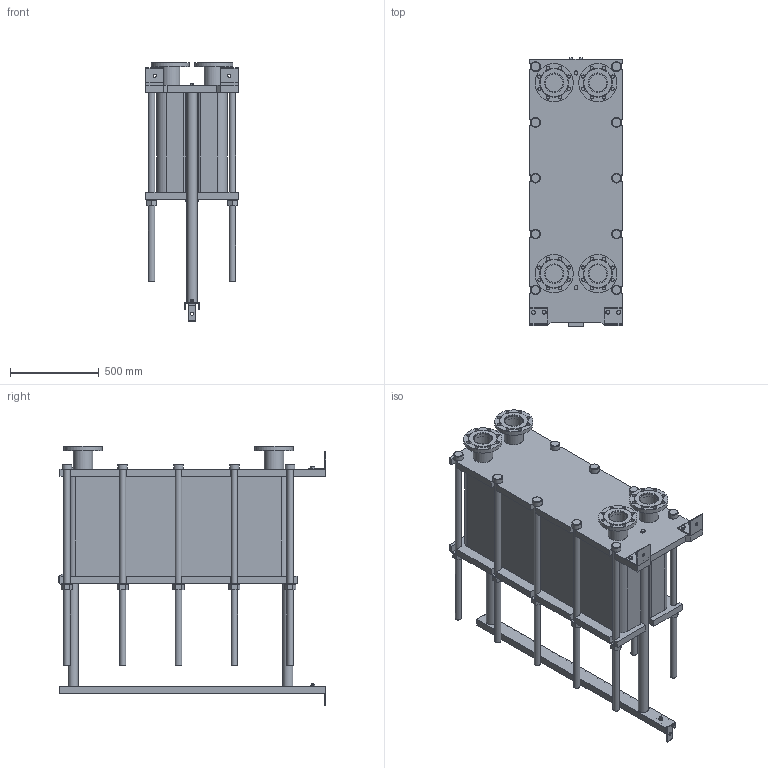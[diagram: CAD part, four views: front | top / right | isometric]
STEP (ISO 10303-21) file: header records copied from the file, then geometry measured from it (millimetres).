
FILE_DESCRIPTION(/* description */ (''),/* implementation_level */ '2;1');
FILE_NAME(/* name */ 'C:\Users\zhuro\Desktop\ENCO\TO\ЭН-04\ЭН-0,5-04-163-1.stp',/* time_stamp */ '2022-06-06T10:59:45+03:00',/* author */ ('zhuro'),/* organization */ (''),/* preprocessor_version */ 'ST-DEVELOPER v18.1',/* originating_system */ 'Autodesk Inventor 2022',/* authorisation */ '');
FILE_SCHEMA (('AUTOMOTIVE_DESIGN { 1 0 10303 214 3 1 1 }'));
Length unit declared in the file: millimetre
Products named in the file (1): ЭН-0,5-04-163-1
Bounding box: 520 x 1510 x 1461.5 mm (x, y, z)
Volume: 355635064.1 mm3; surface area: 9740637.9 mm2
Topology: 45 solids, 45 shells, 668 faces, 1611 edges, 1048 vertices
Faces by surface type: plane 457, cylinder 166, cone 39, torus 6
Full cylindrical faces by diameter (mm): 8 x4, 10 x2, 16 x8, 18 x35, 36 x25, 40 x2, 42 x1, 45 x4, 54 x10, 57 x2, 60 x10, 68 x2, 100 x4, 110 x8, 215 x4
Entity records: 23607 total; most frequent: CARTESIAN_POINT 7348, DIRECTION 3371, ORIENTED_EDGE 3142, EDGE_CURVE 1571, AXIS2_PLACEMENT_3D 1199, VERTEX_POINT 1044, LINE 973, VECTOR 973
